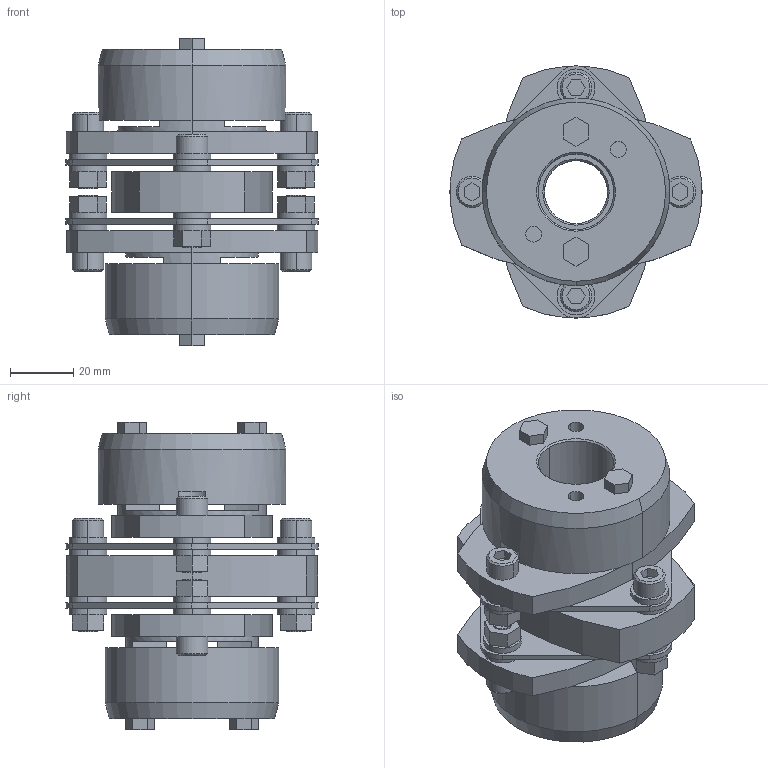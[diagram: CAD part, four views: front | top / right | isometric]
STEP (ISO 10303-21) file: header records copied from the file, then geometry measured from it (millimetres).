
FILE_DESCRIPTION((''),'2;1');
FILE_NAME('LCD-80T7-20×24.stp','2011-09-15T13:36:51',(''),(''),'AutoCAD STEP 2000i','AutoCAD 2000i',', , ');
FILE_SCHEMA(('CONFIG_CONTROL_DESIGN'));
Length unit declared in the file: millimetre
Products named in the file (9): LCD-80T7-19×24; 忣兜1; LC80T7-T024; LC80T7-T022; LC80T7-T019-1; LC80T7-T019; LC80T7-T017-1; LC80T7-T017; LCD80-ITA
Assembly tree (8 placements, depth 2):
  LCD-80T7-19×24
    忣兜1
    LC80T7-T024
    LC80T7-T022
    LC80T7-T019-1
    LC80T7-T019
    LC80T7-T017-1
    LC80T7-T017
    LCD80-ITA
Bounding box: 80 x 79.95 x 97.5 mm (x, y, z)
Volume: 195437.6 mm3; surface area: 58917.1 mm2
Topology: 1 solids, 1 shells, 310 faces, 756 edges, 496 vertices
Faces by surface type: plane 164, cylinder 122, cone 24
Entity records: 9415 total; most frequent: DIRECTION 1682, CARTESIAN_POINT 1571, ORIENTED_EDGE 1512, EDGE_CURVE 756, AXIS2_PLACEMENT_3D 607, VERTEX_POINT 496, VECTOR 468, LINE 468
